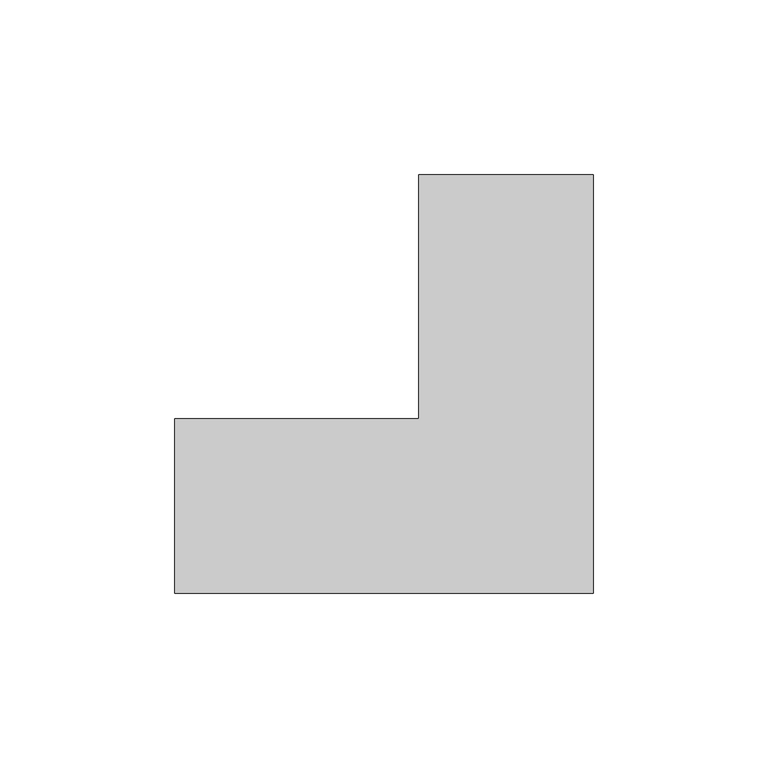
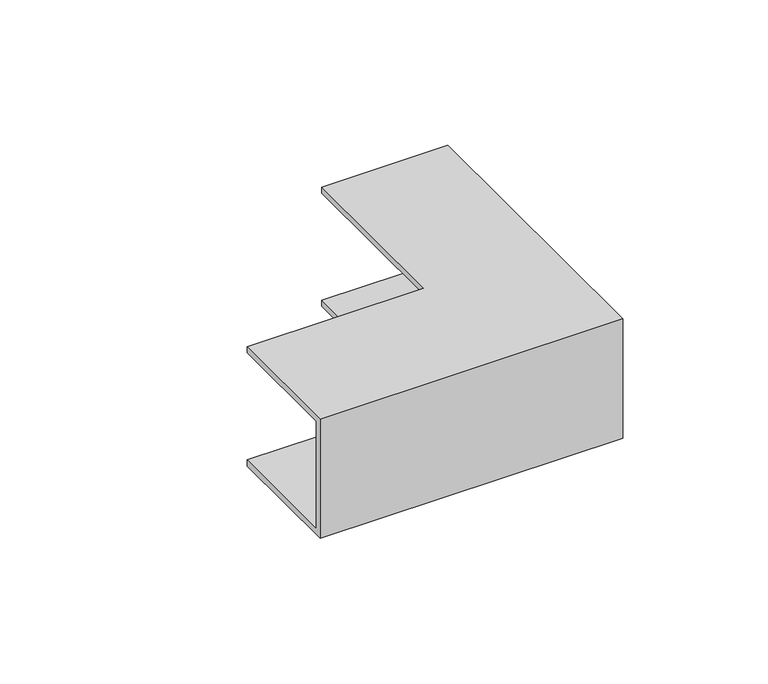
"""IFC4 building model written with IfcOpenShell, lengths in millimetres: cable carrier fitting geometry, CCER 50x50_Vertical_Inside_Bend-Basortray : Basortray CCER50-GS."""

from ifc_helpers import new_model, si_unit, origin, place, context, project, spatial, faceted_brep, source, transform, mapped, element, save


def cable_carrier_fitting_2066f91e(model_context):
    return source(origin(), model_context, "Body", "Brep", [
        faceted_brep([(-95.0, -25.0, -25.0), (-95.0, -25.0, 25.0), (-95.0, 25.0, 25.0), (-95.0, 25.0, 22.46), (-95.0, -22.46, 22.46), (-95.0, -22.46, -22.46), (-95.0, 25.0, -22.46), (-95.0, 25.0, -25.0), (25.0, -25.0, -25.0), (25.0, -25.0, 25.0), (25.0, 95.0, 25.0), (-25.0, 95.0, 25.0), (-25.0, 25.0, 25.0), (-25.0, 25.0, 22.46), (-25.0, 95.0, 22.46), (22.46, 95.0, 22.46), (22.46, -22.46, 22.46), (22.46, -22.46, -22.46), (22.46, 95.0, -22.46), (-25.0, 95.0, -22.46), (-25.0, 25.0, -22.46), (-25.0, 25.0, -25.0), (-25.0, 95.0, -25.0), (25.0, 95.0, -25.0)], [[[0, 1, 2, 3, 4, 5, 6, 7]], [[1, 0, 8, 9]], [[2, 1, 9, 10, 11, 12]], [[3, 2, 12, 13]], [[4, 3, 13, 14, 15, 16]], [[5, 4, 16, 17]], [[6, 5, 17, 18, 19, 20]], [[7, 6, 20, 21]], [[0, 7, 21, 22, 23, 8]], [[23, 22, 19, 18, 15, 14, 11, 10]], [[9, 8, 23, 10]], [[13, 12, 11, 14]], [[17, 16, 15, 18]], [[21, 20, 19, 22]]]),
    ])


if __name__ == "__main__":
    model = new_model("IFC4")
    model_context = context("Model", 3, world=origin())
    ifc_project = project(units=[si_unit("LENGTHUNIT", "METRE", prefix="MILLI")], contexts=[model_context])
    site = spatial("IfcSite", under=ifc_project)
    building = spatial("IfcBuilding", under=site)
    placement = place(None, origin())
    cable_carrier_fitting_shape = cable_carrier_fitting_2066f91e(model_context)
    element("IfcCableCarrierFitting", 1, ObjectType="CCER 50x50_Vertical_Inside_Bend-Basortray : Basortray CCER50-GS", at=placement, inside=building, context=model_context, shape_type="MappedRepresentation", body=[
        mapped(cable_carrier_fitting_shape, transform((0.0, 0.0, 0.0), x_axis=(1.0, 0.0, 0.0), y_axis=(0.0, 1.0, 0.0), z_axis=(0.0, 0.0, 1.0))),
    ])
    save(model, "model.ifc")
